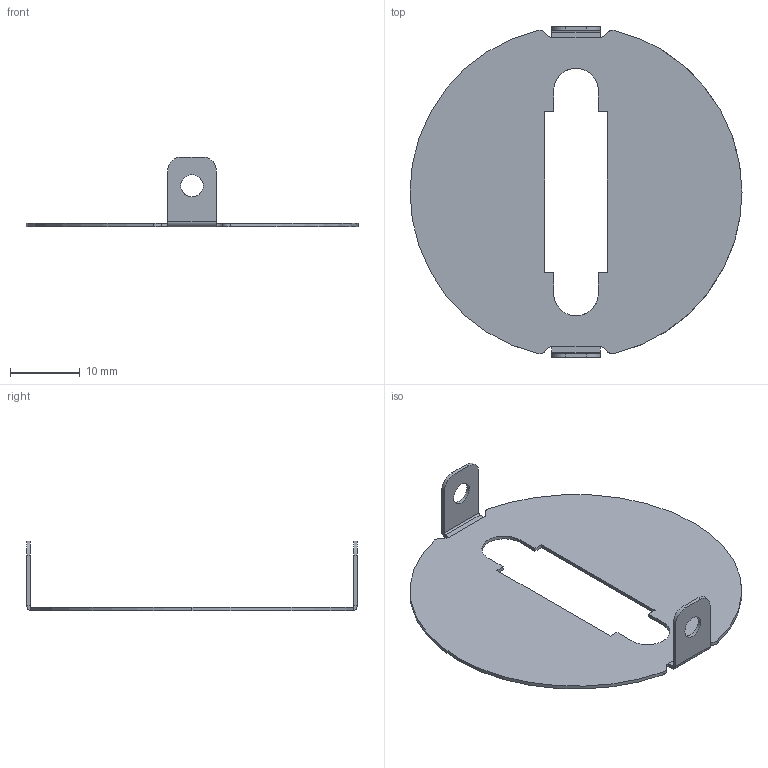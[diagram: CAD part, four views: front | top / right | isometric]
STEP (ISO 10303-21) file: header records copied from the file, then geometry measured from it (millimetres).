
FILE_DESCRIPTION(('CATIA V5 STEP Exchange','CAx-IF Rec.Pracs.--- Model Styling and Organization---1.4--- 2014-01-23','CAx-IF Rec.Pracs.---3D Tessellated Data Validation Properties---0.5---2014-09-14'),'2;1');
FILE_NAME('D:\CTA\NECTARCAM PROD\CTA-01 - Camera Module\CTA-0101 - Focal Plane Module\CTA-010104 - Mechanical Components\CTA-010104-006_4 - Aluminum_Tube_Cap.stp','2026-03-13T09:53:43+00:00',('none'),('none'),'CATIA Version 5-6 Release 2018 SP5 HF4','CATIA V5 STEP AP242','none');
FILE_SCHEMA(('AP242_MANAGED_MODEL_BASED_3D_ENGINEERING_MIM_LF {1 0 10303 442 1 1 4}'));
Length unit declared in the file: millimetre
Products named in the file (1): CTA-010104-006
Bounding box: 47.5 x 47.3 x 10 mm (x, y, z)
Volume: 799.9 mm3; surface area: 3346.7 mm2
Topology: 1 solids, 1 shells, 60 faces, 150 edges, 92 vertices
Faces by surface type: plane 34, cylinder 26
Entity records: 1730 total; most frequent: CARTESIAN_POINT 376, ORIENTED_EDGE 300, DIRECTION 221, EDGE_CURVE 150, VECTOR 98, LINE 98, VERTEX_POINT 92, AXIS2_PLACEMENT_3D 82
